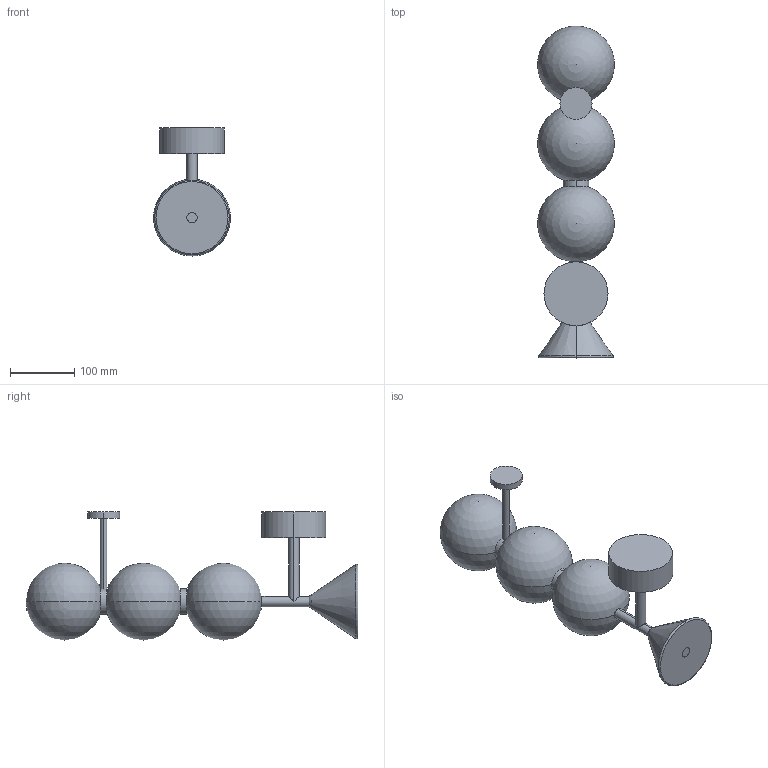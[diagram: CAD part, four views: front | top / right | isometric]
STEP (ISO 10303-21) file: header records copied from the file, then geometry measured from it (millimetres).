
FILE_DESCRIPTION (( 'STEP AP214' ), '1' );
FILE_NAME ('APLIQUE SOKO_3.STEP', '2024-10-14T15:14:12', ( '' ), ( '' ), 'SwSTEP 2.0', 'SolidWorks 2018', '' );
FILE_SCHEMA (( 'AUTOMOTIVE_DESIGN' ));
Length unit declared in the file: millimetre
Products named in the file (1): APLIQUE SOKO_3
Bounding box: 120 x 518.29 x 200 mm (x, y, z)
Volume: 3465873.3 mm3; surface area: 224100.6 mm2
Topology: 10 solids, 10 shells, 40 faces, 80 edges, 52 vertices
Faces by surface type: plane 14, cylinder 14, sphere 6, torus 4, cone 2
Entity records: 1048 total; most frequent: DIRECTION 183, CARTESIAN_POINT 159, ORIENTED_EDGE 126, AXIS2_PLACEMENT_3D 83, EDGE_CURVE 63, VERTEX_POINT 43, CIRCLE 42, ADVANCED_FACE 40
